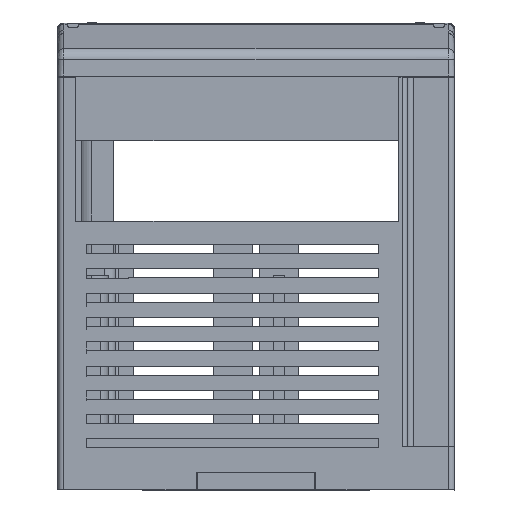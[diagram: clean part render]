
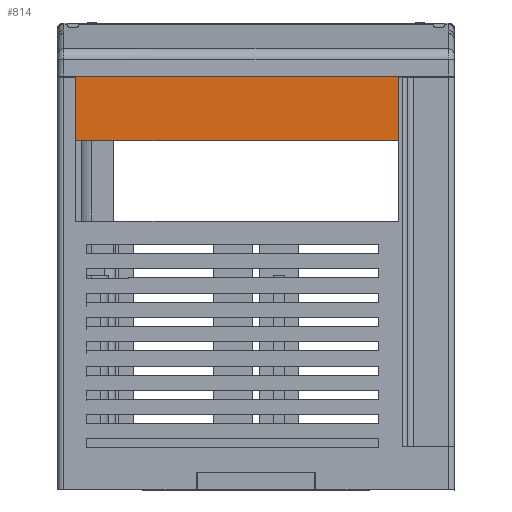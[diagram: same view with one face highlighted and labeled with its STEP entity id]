
A CAD part, front view. The second image highlights one B-rep face of the part: STEP entity #814.
In plain terms, the highlighted planar face has unit normal (0, -1, 0).
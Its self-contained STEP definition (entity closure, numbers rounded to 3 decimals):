
#814 = ADVANCED_FACE ( 'NONE', ( #3064 ), #3536, .F. ) ;
#1636 = DIRECTION ( 'NONE',  ( 1., 0., 0. ) ) ;
#2721 = DIRECTION ( 'NONE',  ( 0., 0., 1. ) ) ;
#3064 = FACE_OUTER_BOUND ( 'NONE', #17632, .T. ) ;
#3536 = PLANE ( 'NONE',  #11350 ) ;
#5924 = EDGE_CURVE ( 'NONE', #44502, #38781, #23251, .T. ) ;
#6339 = CARTESIAN_POINT ( 'NONE',  ( 25.05, -27., -4.5 ) ) ;
#7788 = CARTESIAN_POINT ( 'NONE',  ( -31.65, -27., -4.5 ) ) ;
#8530 = DIRECTION ( 'NONE',  ( 1., 0., 0. ) ) ;
#9082 = VERTEX_POINT ( 'NONE', #33631 ) ;
#9846 = VERTEX_POINT ( 'NONE', #39926 ) ;
#11350 = AXIS2_PLACEMENT_3D ( 'NONE', #24548, #46548, #28879 ) ;
#11640 = ORIENTED_EDGE ( 'NONE', *, *, #26567, .F. ) ;
#11671 = CARTESIAN_POINT ( 'NONE',  ( 30.65, -27., 14.126 ) ) ;
#12532 = CARTESIAN_POINT ( 'NONE',  ( 25.05, -27., 14.126 ) ) ;
#17632 = EDGE_LOOP ( 'NONE', ( #37604, #11640, #20473, #29381 ) ) ;
#18680 = VECTOR ( 'NONE', #1636, 1000. ) ;
#19122 = VECTOR ( 'NONE', #22503, 1000. ) ;
#19585 = VECTOR ( 'NONE', #8530, 1000. ) ;
#20473 = ORIENTED_EDGE ( 'NONE', *, *, #5924, .T. ) ;
#22503 = DIRECTION ( 'NONE',  ( 0., 0., 1. ) ) ;
#23251 = LINE ( 'NONE', #11671, #19585 ) ;
#24074 = CARTESIAN_POINT ( 'NONE',  ( 30.65, -27., 32.8 ) ) ;
#24548 = CARTESIAN_POINT ( 'NONE',  ( 109.35, -27., -4.5 ) ) ;
#26567 = EDGE_CURVE ( 'NONE', #44502, #9846, #33871, .T. ) ;
#28879 = DIRECTION ( 'NONE',  ( 1., 0., 0. ) ) ;
#29381 = ORIENTED_EDGE ( 'NONE', *, *, #44742, .T. ) ;
#29728 = VECTOR ( 'NONE', #2721, 1000. ) ;
#33631 = CARTESIAN_POINT ( 'NONE',  ( 25.05, -27., 32.8 ) ) ;
#33871 = LINE ( 'NONE', #7788, #19122 ) ;
#37604 = ORIENTED_EDGE ( 'NONE', *, *, #41115, .F. ) ;
#38240 = CARTESIAN_POINT ( 'NONE',  ( -31.65, -27., 14.126 ) ) ;
#38781 = VERTEX_POINT ( 'NONE', #12532 ) ;
#39434 = LINE ( 'NONE', #6339, #29728 ) ;
#39926 = CARTESIAN_POINT ( 'NONE',  ( -31.65, -27., 32.8 ) ) ;
#41115 = EDGE_CURVE ( 'NONE', #9846, #9082, #46082, .T. ) ;
#44502 = VERTEX_POINT ( 'NONE', #38240 ) ;
#44742 = EDGE_CURVE ( 'NONE', #38781, #9082, #39434, .T. ) ;
#46082 = LINE ( 'NONE', #24074, #18680 ) ;
#46548 = DIRECTION ( 'NONE',  ( 0., 1., 0. ) ) ;
